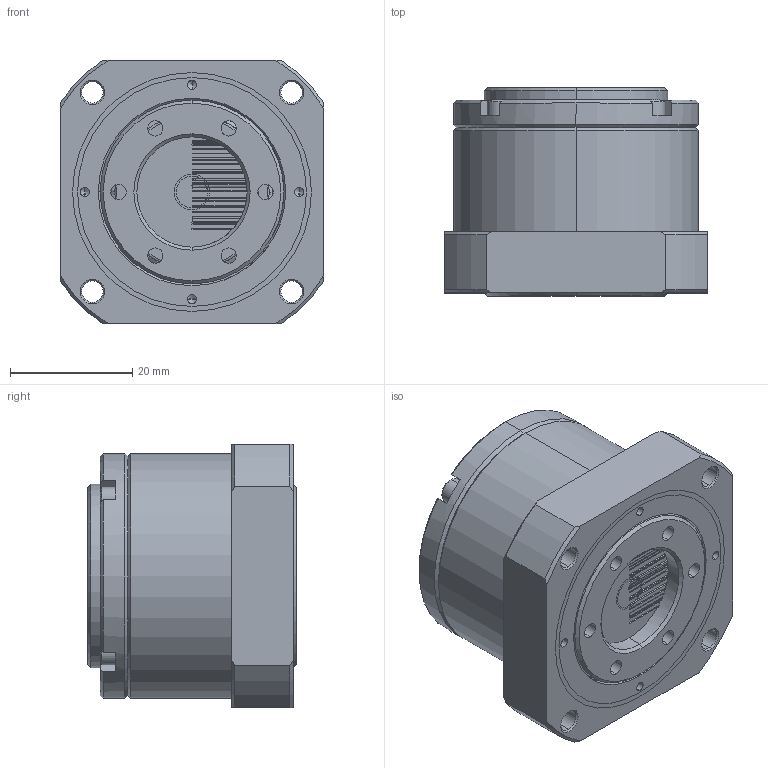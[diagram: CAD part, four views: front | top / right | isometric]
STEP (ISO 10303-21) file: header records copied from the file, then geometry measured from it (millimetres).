
FILE_DESCRIPTION (( 'STEP AP203' ), '1' );
FILE_NAME ('CS-11-U-I.STEP', '2024-09-12T06:40:24', ( 'Windows User' ), ( 'P R C' ), 'SwSTEP 2.0', 'SolidWorks 2016', '' );
FILE_SCHEMA (( 'CONFIG_CONTROL_DESIGN' ));
Length unit declared in the file: millimetre
Products named in the file (1): CS-11-U-I
Bounding box: 43 x 34 x 43 mm (x, y, z)
Volume: 35886.2 mm3; surface area: 34736.2 mm2
Topology: 42 solids, 42 shells, 2209 faces, 6266 edges, 4101 vertices
Faces by surface type: plane 1283, bspline 427, cylinder 331, cone 168
Entity records: 86502 total; most frequent: CARTESIAN_POINT 31289, ORIENTED_EDGE 12468, DIRECTION 10223, EDGE_CURVE 6234, VERTEX_POINT 4101, AXIS2_PLACEMENT_3D 3431, VECTOR 3361, LINE 3361
